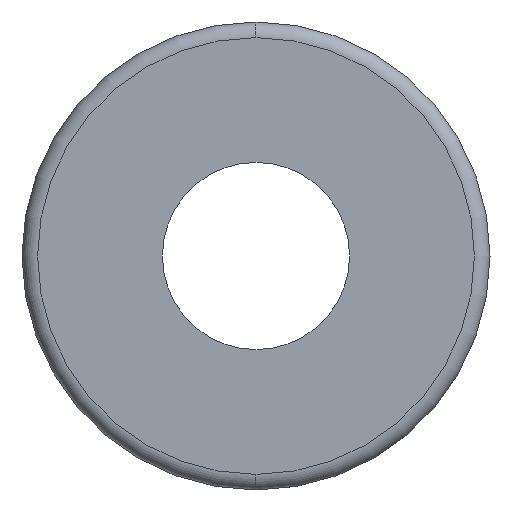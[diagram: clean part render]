
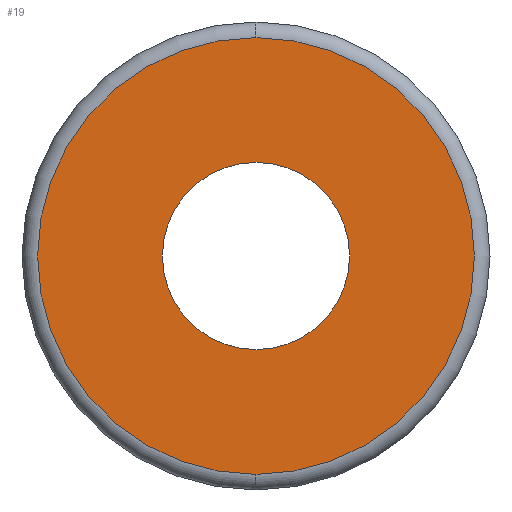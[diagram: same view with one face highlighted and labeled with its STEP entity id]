
A CAD part, left-side view. The second image highlights one B-rep face of the part: STEP entity #19.
In plain terms, the highlighted planar face has unit normal (-1, 0, 0).
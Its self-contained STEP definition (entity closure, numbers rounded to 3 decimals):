
#2 = ORIENTED_EDGE ( 'NONE', *, *, #164, .F. ) ;
#8 = CARTESIAN_POINT ( 'NONE',  ( 0., 0., -14. ) ) ;
#19 = ADVANCED_FACE ( 'NONE', ( #268, #103 ), #158, .F. ) ;
#29 = DIRECTION ( 'NONE',  ( 0., 0., 1. ) ) ;
#34 = CARTESIAN_POINT ( 'NONE',  ( 0., 0., 0. ) ) ;
#46 = VERTEX_POINT ( 'NONE', #111 ) ;
#49 = DIRECTION ( 'NONE',  ( -1., 0., 0. ) ) ;
#55 = CARTESIAN_POINT ( 'NONE',  ( 0., 0., 0. ) ) ;
#103 = FACE_BOUND ( 'NONE', #192, .T. ) ;
#111 = CARTESIAN_POINT ( 'NONE',  ( 0., 0., 6. ) ) ;
#112 = ORIENTED_EDGE ( 'NONE', *, *, #139, .F. ) ;
#124 = AXIS2_PLACEMENT_3D ( 'NONE', #314, #377, #249 ) ;
#127 = DIRECTION ( 'NONE',  ( -1., 0., 0. ) ) ;
#135 = CIRCLE ( 'NONE', #362, 14. ) ;
#138 = CIRCLE ( 'NONE', #386, 6. ) ;
#139 = EDGE_CURVE ( 'NONE', #46, #167, #168, .T. ) ;
#146 = EDGE_CURVE ( 'NONE', #392, #191, #135, .T. ) ;
#158 = PLANE ( 'NONE',  #124 ) ;
#164 = EDGE_CURVE ( 'NONE', #167, #46, #138, .T. ) ;
#165 = EDGE_CURVE ( 'NONE', #191, #392, #177, .T. ) ;
#167 = VERTEX_POINT ( 'NONE', #307 ) ;
#168 = CIRCLE ( 'NONE', #338, 6. ) ;
#177 = CIRCLE ( 'NONE', #401, 14. ) ;
#184 = DIRECTION ( 'NONE',  ( 0., 0., 1. ) ) ;
#191 = VERTEX_POINT ( 'NONE', #271 ) ;
#192 = EDGE_LOOP ( 'NONE', ( #112, #2 ) ) ;
#197 = ORIENTED_EDGE ( 'NONE', *, *, #165, .T. ) ;
#203 = DIRECTION ( 'NONE',  ( -1., 0., 0. ) ) ;
#209 = DIRECTION ( 'NONE',  ( 0., 0., -1. ) ) ;
#212 = DIRECTION ( 'NONE',  ( 0., 0., -1. ) ) ;
#248 = DIRECTION ( 'NONE',  ( -1., 0., 0. ) ) ;
#249 = DIRECTION ( 'NONE',  ( 0., 0., -1. ) ) ;
#268 = FACE_OUTER_BOUND ( 'NONE', #391, .T. ) ;
#271 = CARTESIAN_POINT ( 'NONE',  ( 0., 0., 14. ) ) ;
#280 = CARTESIAN_POINT ( 'NONE',  ( 0., 0., 0. ) ) ;
#307 = CARTESIAN_POINT ( 'NONE',  ( 0., 0., -6. ) ) ;
#314 = CARTESIAN_POINT ( 'NONE',  ( 0., 6., 0. ) ) ;
#338 = AXIS2_PLACEMENT_3D ( 'NONE', #34, #49, #29 ) ;
#342 = CARTESIAN_POINT ( 'NONE',  ( 0., 0., 0. ) ) ;
#362 = AXIS2_PLACEMENT_3D ( 'NONE', #55, #127, #209 ) ;
#377 = DIRECTION ( 'NONE',  ( 1., 0., 0. ) ) ;
#386 = AXIS2_PLACEMENT_3D ( 'NONE', #280, #203, #184 ) ;
#391 = EDGE_LOOP ( 'NONE', ( #395, #197 ) ) ;
#392 = VERTEX_POINT ( 'NONE', #8 ) ;
#395 = ORIENTED_EDGE ( 'NONE', *, *, #146, .T. ) ;
#401 = AXIS2_PLACEMENT_3D ( 'NONE', #342, #248, #212 ) ;
